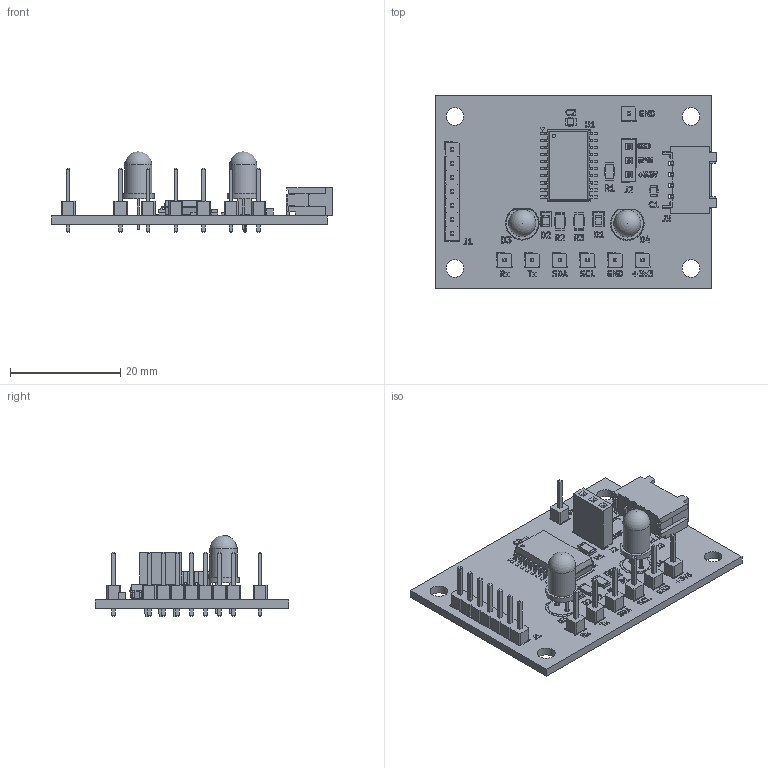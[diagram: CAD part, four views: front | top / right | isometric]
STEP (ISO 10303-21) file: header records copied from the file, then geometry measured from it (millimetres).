
FILE_DESCRIPTION(('KiCad electronic assembly'),'2;1');
FILE_NAME('RIVAREL_MARIUS_DVIL_Clavier_ATtiny_V5.step', '2025-05-05T15:10:17',('Pcbnew'),('Kicad'), 'Open CASCADE STEP processor 7.8','KiCad to STEP converter','Unknown' );
FILE_SCHEMA(('AUTOMOTIVE_DESIGN { 1 0 10303 214 1 1 1 1 }'));
Length unit declared in the file: millimetre
Products named in the file (13): RIVAREL_MARIUS_DVIL_Clavier_ATtiny_V5 1; LED_0805_2012Metric; C_0805_2012Metric; R_1206_3216Metric; PinSocket_1x03_P2.54mm_Vertical; PinHeader_1x01_P2.54mm_Vertical; Grove_femelle_angle_droit; 114020163_114020163; LED_D5.0mm_Clear; PinHeader_1x07_P2.54mm_Vertical; SOIC-20W_7.5x12.8mm_P1.27mm; RIVAREL_MARIUS_DVIL_Clavier_ATtiny_V5_silkscreen; RIVAREL_MARIUS_DVIL_Clavier_ATtiny_V5_PCB
Assembly tree (23 placements, depth 3):
  RIVAREL_MARIUS_DVIL_Clavier_ATtiny_V5 1
    LED_0805_2012Metric  x2
    C_0805_2012Metric  x2
    R_1206_3216Metric  x3
    PinSocket_1x03_P2.54mm_Vertical
    PinHeader_1x01_P2.54mm_Vertical  x7
    Grove_femelle_angle_droit
      114020163_114020163
    LED_D5.0mm_Clear  x2
    PinHeader_1x07_P2.54mm_Vertical
    SOIC-20W_7.5x12.8mm_P1.27mm
    RIVAREL_MARIUS_DVIL_Clavier_ATtiny_V5_silkscreen
    RIVAREL_MARIUS_DVIL_Clavier_ATtiny_V5_PCB
Bounding box: 50.95 x 35 x 14.7 mm (x, y, z)
Volume: 3758.1 mm3; surface area: 6462.3 mm2
Topology: 31 solids, 214 shells, 1528 faces, 6522 edges, 5284 vertices
Faces by surface type: plane 1286, cylinder 196, bspline 44, sphere 2
Full cylindrical faces by diameter (mm): 0.6 x1, 0.8 x4, 0.9 x4, 1 x17, 3.2 x4, 4.9 x2
Entity records: 65893 total; most frequent: CARTESIAN_POINT 11962, DIRECTION 9154, ORIENTED_EDGE 8408, EDGE_CURVE 5761, VERTEX_POINT 4799, LINE 4692, VECTOR 4692, AXIS2_PLACEMENT_3D 2231
